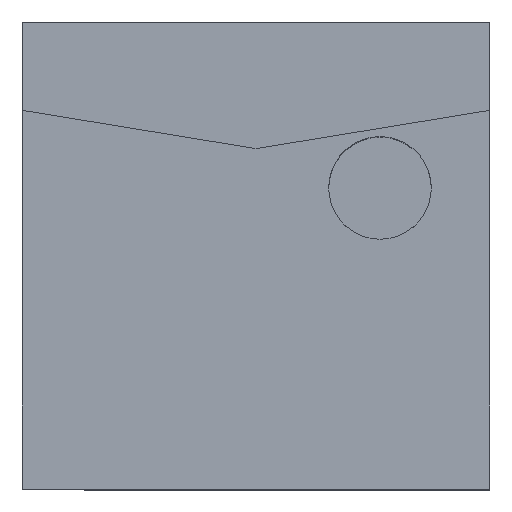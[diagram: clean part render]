
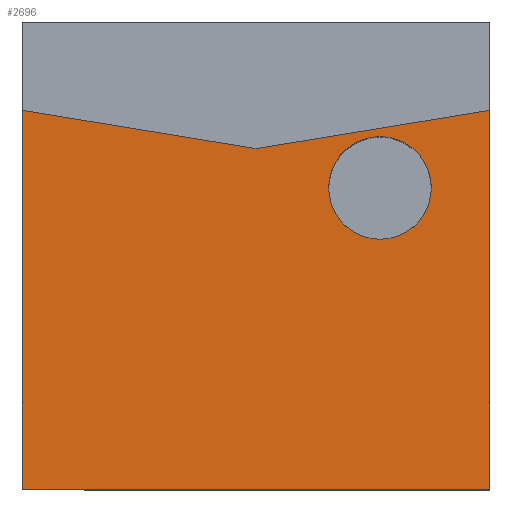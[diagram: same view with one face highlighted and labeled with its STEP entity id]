
A CAD part, top view. The second image highlights one B-rep face of the part: STEP entity #2696.
In plain terms, the highlighted planar face has unit normal (0, 0, 1).
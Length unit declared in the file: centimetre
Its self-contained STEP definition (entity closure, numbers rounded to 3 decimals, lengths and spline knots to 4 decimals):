
#14 = DIRECTION ( 'NONE',  ( 1., 0., 0. ) ) ;
#115 = ORIENTED_EDGE ( 'NONE', *, *, #999, .F. ) ;
#185 = EDGE_LOOP ( 'NONE', ( #1742, #556, #2463, #2665, #1033 ) ) ;
#319 = FACE_OUTER_BOUND ( 'NONE', #185, .T. ) ;
#333 = EDGE_CURVE ( 'NONE', #1347, #1584, #1359, .T. ) ;
#389 = EDGE_CURVE ( 'NONE', #1133, #764, #831, .T. ) ;
#411 = CARTESIAN_POINT ( 'NONE',  ( 765.0674, 644.0075, 1000. ) ) ;
#420 = LINE ( 'NONE', #2190, #1573 ) ;
#506 = CARTESIAN_POINT ( 'NONE',  ( 0., 0., 1000. ) ) ;
#554 = PLANE ( 'NONE',  #617 ) ;
#556 = ORIENTED_EDGE ( 'NONE', *, *, #2440, .F. ) ;
#617 = AXIS2_PLACEMENT_3D ( 'NONE', #506, #2306, #2089 ) ;
#640 = AXIS2_PLACEMENT_3D ( 'NONE', #411, #2866, #14 ) ;
#687 = EDGE_CURVE ( 'NONE', #770, #1414, #2064, .T. ) ;
#702 = DIRECTION ( 'NONE',  ( 0., -1., 0. ) ) ;
#704 = CARTESIAN_POINT ( 'NONE',  ( 874.8157, 644.0075, 1000. ) ) ;
#740 = VERTEX_POINT ( 'NONE', #1399 ) ;
#752 = VECTOR ( 'NONE', #2670, 100. ) ;
#761 = CARTESIAN_POINT ( 'NONE',  ( 0., 0., 1000. ) ) ;
#764 = VERTEX_POINT ( 'NONE', #1857 ) ;
#770 = VERTEX_POINT ( 'NONE', #2307 ) ;
#831 = CIRCLE ( 'NONE', #2812, 109.7483 ) ;
#999 = EDGE_CURVE ( 'NONE', #764, #1133, #2862, .T. ) ;
#1033 = ORIENTED_EDGE ( 'NONE', *, *, #2270, .T. ) ;
#1079 = ORIENTED_EDGE ( 'NONE', *, *, #389, .F. ) ;
#1133 = VERTEX_POINT ( 'NONE', #704 ) ;
#1212 = EDGE_LOOP ( 'NONE', ( #1079, #115 ) ) ;
#1347 = VERTEX_POINT ( 'NONE', #1498 ) ;
#1359 = LINE ( 'NONE', #2191, #1883 ) ;
#1381 = CARTESIAN_POINT ( 'NONE',  ( 500., 728.0866, 1000. ) ) ;
#1399 = CARTESIAN_POINT ( 'NONE',  ( 1000., 0., 1000. ) ) ;
#1414 = VERTEX_POINT ( 'NONE', #1798 ) ;
#1451 = FACE_BOUND ( 'NONE', #1212, .T. ) ;
#1485 = CARTESIAN_POINT ( 'NONE',  ( 1000., 1000., 1000. ) ) ;
#1498 = CARTESIAN_POINT ( 'NONE',  ( 0., 809.7287, 1000. ) ) ;
#1553 = LINE ( 'NONE', #1381, #752 ) ;
#1573 = VECTOR ( 'NONE', #2806, 100. ) ;
#1584 = VERTEX_POINT ( 'NONE', #761 ) ;
#1617 = DIRECTION ( 'NONE',  ( 0.987, 0.161, 0. ) ) ;
#1705 = LINE ( 'NONE', #1485, #2833 ) ;
#1707 = VECTOR ( 'NONE', #1617, 100. ) ;
#1742 = ORIENTED_EDGE ( 'NONE', *, *, #687, .F. ) ;
#1758 = DIRECTION ( 'NONE',  ( 0., 1., 0. ) ) ;
#1798 = CARTESIAN_POINT ( 'NONE',  ( 1000., 809.7287, 1000. ) ) ;
#1857 = CARTESIAN_POINT ( 'NONE',  ( 655.3191, 644.0075, 1000. ) ) ;
#1883 = VECTOR ( 'NONE', #702, 100. ) ;
#1989 = DIRECTION ( 'NONE',  ( 1., 0., 0. ) ) ;
#2064 = LINE ( 'NONE', #2278, #1707 ) ;
#2089 = DIRECTION ( 'NONE',  ( 1., 0., 0. ) ) ;
#2126 = EDGE_CURVE ( 'NONE', #1584, #740, #420, .T. ) ;
#2190 = CARTESIAN_POINT ( 'NONE',  ( 0., 0., 1000. ) ) ;
#2191 = CARTESIAN_POINT ( 'NONE',  ( 0., 1000., 1000. ) ) ;
#2249 = DIRECTION ( 'NONE',  ( 0., 0., 1. ) ) ;
#2270 = EDGE_CURVE ( 'NONE', #740, #1414, #1705, .T. ) ;
#2278 = CARTESIAN_POINT ( 'NONE',  ( 1000., 809.7287, 1000. ) ) ;
#2306 = DIRECTION ( 'NONE',  ( 0., 0., 1. ) ) ;
#2307 = CARTESIAN_POINT ( 'NONE',  ( 500., 728.0866, 1000. ) ) ;
#2440 = EDGE_CURVE ( 'NONE', #1347, #770, #1553, .T. ) ;
#2463 = ORIENTED_EDGE ( 'NONE', *, *, #333, .T. ) ;
#2471 = CARTESIAN_POINT ( 'NONE',  ( 765.0674, 644.0075, 1000. ) ) ;
#2665 = ORIENTED_EDGE ( 'NONE', *, *, #2126, .T. ) ;
#2670 = DIRECTION ( 'NONE',  ( 0.987, -0.161, 0. ) ) ;
#2696 = ADVANCED_FACE ( 'NONE', ( #1451, #319 ), #554, .T. ) ;
#2806 = DIRECTION ( 'NONE',  ( 1., 0., 0. ) ) ;
#2812 = AXIS2_PLACEMENT_3D ( 'NONE', #2471, #2249, #1989 ) ;
#2833 = VECTOR ( 'NONE', #1758, 100. ) ;
#2862 = CIRCLE ( 'NONE', #640, 109.7483 ) ;
#2866 = DIRECTION ( 'NONE',  ( 0., 0., 1. ) ) ;
